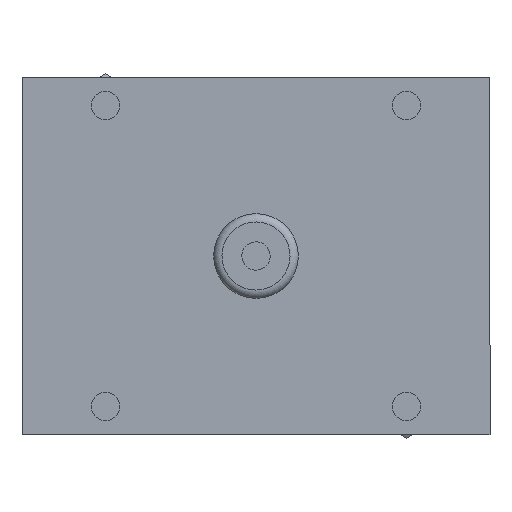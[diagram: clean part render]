
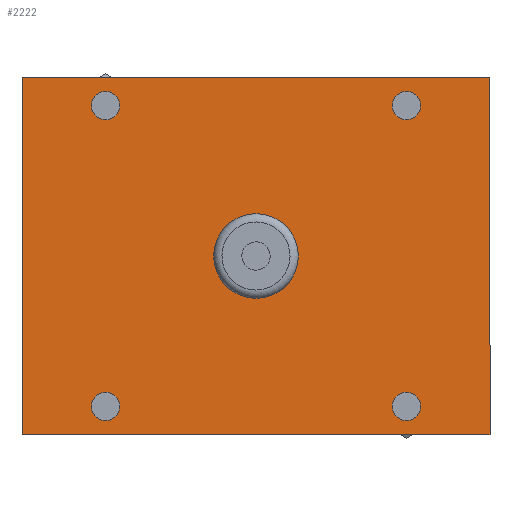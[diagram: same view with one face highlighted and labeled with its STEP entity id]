
A CAD part, front view. The second image highlights one B-rep face of the part: STEP entity #2222.
In plain terms, the highlighted planar face has unit normal (0, -1, 0).
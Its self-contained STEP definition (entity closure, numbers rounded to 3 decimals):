
#2112=CARTESIAN_POINT('',(0.,0.,-9.936));
#2113=VERTEX_POINT('',#2112);
#2114=CARTESIAN_POINT('',(0.,0.0,0.));
#2115=DIRECTION('',(0.0,1.0,0.0));
#2116=DIRECTION('',(0.0,0.0,1.0));
#2117=AXIS2_PLACEMENT_3D('',#2114,#2115,#2116);
#2118=CIRCLE('',#2117,9.936);
#2119=EDGE_CURVE('',#2113,#2113,#2118,.T.);
#2136=CARTESIAN_POINT('',(0.,0.,0.));
#2137=DIRECTION('',(0.0,1.0,0.0));
#2138=DIRECTION('',(0.0,0.0,-1.0));
#2139=AXIS2_PLACEMENT_3D('',#2136,#2137,#2138);
#2140=PLANE('',#2139);
#2141=CARTESIAN_POINT('',(-55.,0.,42.));
#2142=VERTEX_POINT('',#2141);
#2143=CARTESIAN_POINT('',(-55.,0.,-42.));
#2144=VERTEX_POINT('',#2143);
#2145=CARTESIAN_POINT('',(-55.,0.,42.));
#2146=DIRECTION('',(0.0,0.0,-1.0));
#2147=VECTOR('',#2146,84.);
#2148=LINE('',#2145,#2147);
#2149=EDGE_CURVE('',#2142,#2144,#2148,.T.);
#2150=ORIENTED_EDGE('',*,*,#2149,.T.);
#2151=CARTESIAN_POINT('',(55.,0.,-42.));
#2152=VERTEX_POINT('',#2151);
#2153=CARTESIAN_POINT('',(-55.,0.,-42.));
#2154=DIRECTION('',(1.0,0.0,0.0));
#2155=VECTOR('',#2154,110.);
#2156=LINE('',#2153,#2155);
#2157=EDGE_CURVE('',#2144,#2152,#2156,.T.);
#2158=ORIENTED_EDGE('',*,*,#2157,.T.);
#2159=CARTESIAN_POINT('',(55.,0.,42.));
#2160=VERTEX_POINT('',#2159);
#2161=CARTESIAN_POINT('',(55.,0.,-42.));
#2162=DIRECTION('',(0.0,0.0,1.0));
#2163=VECTOR('',#2162,84.0);
#2164=LINE('',#2161,#2163);
#2165=EDGE_CURVE('',#2152,#2160,#2164,.T.);
#2166=ORIENTED_EDGE('',*,*,#2165,.T.);
#2167=CARTESIAN_POINT('',(55.,0.,42.));
#2168=DIRECTION('',(-1.0,0.0,0.0));
#2169=VECTOR('',#2168,110.0);
#2170=LINE('',#2167,#2169);
#2171=EDGE_CURVE('',#2160,#2142,#2170,.T.);
#2172=ORIENTED_EDGE('',*,*,#2171,.T.);
#2173=EDGE_LOOP('',(#2150,#2158,#2166,#2172));
#2174=FACE_OUTER_BOUND('',#2173,.T.);
#2175=CARTESIAN_POINT('',(-35.355,0.,-32.032));
#2176=VERTEX_POINT('',#2175);
#2177=CARTESIAN_POINT('',(-35.355,0.,-35.355));
#2178=DIRECTION('',(0.0,1.0,0.0));
#2179=DIRECTION('',(0.0,0.0,1.0));
#2180=AXIS2_PLACEMENT_3D('',#2177,#2178,#2179);
#2181=CIRCLE('',#2180,3.324);
#2182=EDGE_CURVE('',#2176,#2176,#2181,.T.);
#2183=ORIENTED_EDGE('',*,*,#2182,.T.);
#2184=EDGE_LOOP('',(#2183));
#2185=FACE_BOUND('',#2184,.T.);
#2186=CARTESIAN_POINT('',(35.355,0.,-32.032));
#2187=VERTEX_POINT('',#2186);
#2188=CARTESIAN_POINT('',(35.355,0.,-35.355));
#2189=DIRECTION('',(0.0,1.0,0.0));
#2190=DIRECTION('',(0.0,0.0,1.0));
#2191=AXIS2_PLACEMENT_3D('',#2188,#2189,#2190);
#2192=CIRCLE('',#2191,3.324);
#2193=EDGE_CURVE('',#2187,#2187,#2192,.T.);
#2194=ORIENTED_EDGE('',*,*,#2193,.T.);
#2195=EDGE_LOOP('',(#2194));
#2196=FACE_BOUND('',#2195,.T.);
#2197=CARTESIAN_POINT('',(35.355,0.,38.679));
#2198=VERTEX_POINT('',#2197);
#2199=CARTESIAN_POINT('',(35.355,0.,35.355));
#2200=DIRECTION('',(0.0,1.0,0.0));
#2201=DIRECTION('',(0.0,0.0,1.0));
#2202=AXIS2_PLACEMENT_3D('',#2199,#2200,#2201);
#2203=CIRCLE('',#2202,3.324);
#2204=EDGE_CURVE('',#2198,#2198,#2203,.T.);
#2205=ORIENTED_EDGE('',*,*,#2204,.T.);
#2206=EDGE_LOOP('',(#2205));
#2207=FACE_BOUND('',#2206,.T.);
#2208=CARTESIAN_POINT('',(-35.355,0.,38.679));
#2209=VERTEX_POINT('',#2208);
#2210=CARTESIAN_POINT('',(-35.355,0.,35.355));
#2211=DIRECTION('',(0.0,1.0,0.0));
#2212=DIRECTION('',(0.0,0.0,1.0));
#2213=AXIS2_PLACEMENT_3D('',#2210,#2211,#2212);
#2214=CIRCLE('',#2213,3.324);
#2215=EDGE_CURVE('',#2209,#2209,#2214,.T.);
#2216=ORIENTED_EDGE('',*,*,#2215,.T.);
#2217=EDGE_LOOP('',(#2216));
#2218=FACE_BOUND('',#2217,.T.);
#2219=ORIENTED_EDGE('',*,*,#2119,.T.);
#2220=EDGE_LOOP('',(#2219));
#2221=FACE_BOUND('',#2220,.T.);
#2222=ADVANCED_FACE('',(#2174,#2185,#2196,#2207,#2218,#2221),#2140,.F.);
